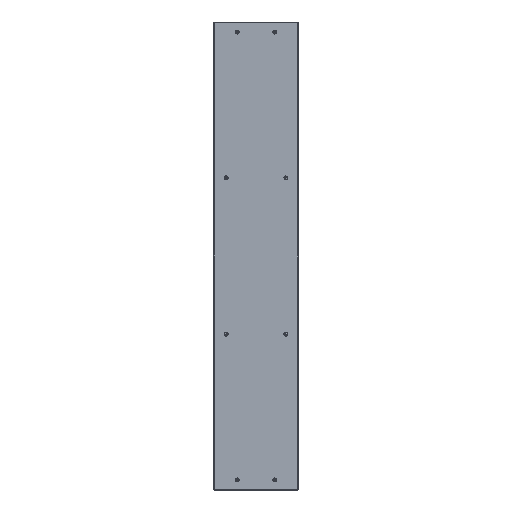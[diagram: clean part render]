
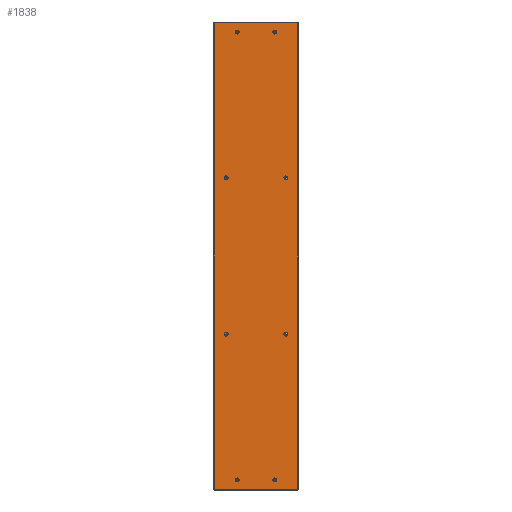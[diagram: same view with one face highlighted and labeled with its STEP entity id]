
A CAD part, left-side view. The second image highlights one B-rep face of the part: STEP entity #1838.
In plain terms, the highlighted planar face has unit normal (-1, 0, 0).
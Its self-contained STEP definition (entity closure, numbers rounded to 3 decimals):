
#1838=ADVANCED_FACE('',(#2386,#2388,#2390,#2392,#2394,#2396,#2398,#2400,#2402),#2404,
.F.);
#2386=FACE_BOUND('',#2387,.T.);
#2387=EDGE_LOOP('',(#6957,#6958,#6959,#6960));
#2388=FACE_BOUND('',#2389,.T.);
#2389=EDGE_LOOP('',(#6961));
#2390=FACE_BOUND('',#2391,.T.);
#2391=EDGE_LOOP('',(#6962));
#2392=FACE_BOUND('',#2393,.T.);
#2393=EDGE_LOOP('',(#6963));
#2394=FACE_BOUND('',#2395,.T.);
#2395=EDGE_LOOP('',(#6964));
#2396=FACE_BOUND('',#2397,.T.);
#2397=EDGE_LOOP('',(#6965));
#2398=FACE_BOUND('',#2399,.T.);
#2399=EDGE_LOOP('',(#6966));
#2400=FACE_BOUND('',#2401,.T.);
#2401=EDGE_LOOP('',(#6967));
#2402=FACE_BOUND('',#2403,.T.);
#2403=EDGE_LOOP('',(#6968));
#2404=PLANE('',#2405);
#2405=AXIS2_PLACEMENT_3D('',#2406,#2407,#2408);
#2406=CARTESIAN_POINT('',(0.,0.,0.));
#2407=DIRECTION('',(1.,0.,0.));
#2408=DIRECTION('',(0.,1.,0.));
#6957=ORIENTED_EDGE('',*,*,#8157,.T.);
#6958=ORIENTED_EDGE('',*,*,#8158,.T.);
#6959=ORIENTED_EDGE('',*,*,#8159,.T.);
#6960=ORIENTED_EDGE('',*,*,#8160,.T.);
#6961=ORIENTED_EDGE('',*,*,#8161,.T.);
#6962=ORIENTED_EDGE('',*,*,#8162,.T.);
#6963=ORIENTED_EDGE('',*,*,#8163,.T.);
#6964=ORIENTED_EDGE('',*,*,#8164,.T.);
#6965=ORIENTED_EDGE('',*,*,#8165,.T.);
#6966=ORIENTED_EDGE('',*,*,#8166,.T.);
#6967=ORIENTED_EDGE('',*,*,#8167,.T.);
#6968=ORIENTED_EDGE('',*,*,#8168,.T.);
#8157=EDGE_CURVE('',#8819,#8820,#8821,.T.);
#8158=EDGE_CURVE('',#8820,#8822,#8823,.T.);
#8159=EDGE_CURVE('',#8822,#8824,#8825,.T.);
#8160=EDGE_CURVE('',#8824,#8819,#8826,.T.);
#8161=EDGE_CURVE('',#8827,#8827,#8828,.T.);
#8162=EDGE_CURVE('',#8829,#8829,#8830,.T.);
#8163=EDGE_CURVE('',#8831,#8831,#8832,.T.);
#8164=EDGE_CURVE('',#8833,#8833,#8834,.T.);
#8165=EDGE_CURVE('',#8835,#8835,#8836,.T.);
#8166=EDGE_CURVE('',#8837,#8837,#8838,.T.);
#8167=EDGE_CURVE('',#8839,#8839,#8840,.T.);
#8168=EDGE_CURVE('',#8841,#8841,#8842,.T.);
#8819=VERTEX_POINT('',#10003);
#8820=VERTEX_POINT('',#10004);
#8821=LINE('',#10005,#10006);
#8822=VERTEX_POINT('',#10008);
#8823=LINE('',#10009,#10010);
#8824=VERTEX_POINT('',#10012);
#8825=LINE('',#10013,#10014);
#8826=LINE('',#10016,#10017);
#8827=VERTEX_POINT('',#10019);
#8828=CIRCLE('',#10020,9.25);
#8829=VERTEX_POINT('',#10024);
#8830=CIRCLE('',#10025,9.25);
#8831=VERTEX_POINT('',#10029);
#8832=CIRCLE('',#10030,9.25);
#8833=VERTEX_POINT('',#10034);
#8834=CIRCLE('',#10035,8.727);
#8835=VERTEX_POINT('',#10039);
#8836=CIRCLE('',#10040,9.25);
#8837=VERTEX_POINT('',#10044);
#8838=CIRCLE('',#10045,9.25);
#8839=VERTEX_POINT('',#10049);
#8840=CIRCLE('',#10050,9.25);
#8841=VERTEX_POINT('',#10054);
#8842=CIRCLE('',#10055,9.25);
#10003=CARTESIAN_POINT('',(0.,192.7,1082.7));
#10004=CARTESIAN_POINT('',(0.,192.7,-1082.7));
#10005=CARTESIAN_POINT('',(0.,192.7,1082.7));
#10006=VECTOR('',#10007,1.);
#10007=DIRECTION('',(0.,0.,-1.));
#10008=CARTESIAN_POINT('',(0.,-192.7,-1082.7));
#10009=CARTESIAN_POINT('',(0.,192.7,-1082.7));
#10010=VECTOR('',#10011,1.);
#10011=DIRECTION('',(0.,-1.,0.));
#10012=CARTESIAN_POINT('',(0.,-192.7,1082.7));
#10013=CARTESIAN_POINT('',(0.,-192.7,-1082.7));
#10014=VECTOR('',#10015,1.);
#10015=DIRECTION('',(0.,0.,1.));
#10016=CARTESIAN_POINT('',(0.,-192.7,1082.7));
#10017=VECTOR('',#10018,1.);
#10018=DIRECTION('',(0.,1.,0.));
#10019=CARTESIAN_POINT('',(0.,129.25,-362.5));
#10020=AXIS2_PLACEMENT_3D('',#10021,#10022,#10023);
#10021=CARTESIAN_POINT('',(0.,138.5,-362.5));
#10022=DIRECTION('',(1.,0.,0.));
#10023=DIRECTION('',(0.,-1.,0.));
#10024=CARTESIAN_POINT('',(0.,-147.75,-362.5));
#10025=AXIS2_PLACEMENT_3D('',#10026,#10027,#10028);
#10026=CARTESIAN_POINT('',(0.,-138.5,-362.5));
#10027=DIRECTION('',(1.,0.,0.));
#10028=DIRECTION('',(0.,-1.,0.));
#10029=CARTESIAN_POINT('',(0.,129.25,362.5));
#10030=AXIS2_PLACEMENT_3D('',#10031,#10032,#10033);
#10031=CARTESIAN_POINT('',(0.,138.5,362.5));
#10032=DIRECTION('',(1.,0.,0.));
#10033=DIRECTION('',(0.,-1.,0.));
#10034=CARTESIAN_POINT('',(0.,-147.227,362.5));
#10035=AXIS2_PLACEMENT_3D('',#10036,#10037,#10038);
#10036=CARTESIAN_POINT('',(0.,-138.5,362.5));
#10037=DIRECTION('',(1.,0.,0.));
#10038=DIRECTION('',(0.,-1.,0.));
#10039=CARTESIAN_POINT('',(0.,-78.25,1039.));
#10040=AXIS2_PLACEMENT_3D('',#10041,#10042,#10043);
#10041=CARTESIAN_POINT('',(0.,-87.5,1039.));
#10042=DIRECTION('',(1.,0.,0.));
#10043=DIRECTION('',(0.,1.,0.));
#10044=CARTESIAN_POINT('',(0.,96.75,1039.));
#10045=AXIS2_PLACEMENT_3D('',#10046,#10047,#10048);
#10046=CARTESIAN_POINT('',(0.,87.5,1039.));
#10047=DIRECTION('',(1.,0.,0.));
#10048=DIRECTION('',(0.,1.,0.));
#10049=CARTESIAN_POINT('',(0.,-78.25,-1039.));
#10050=AXIS2_PLACEMENT_3D('',#10051,#10052,#10053);
#10051=CARTESIAN_POINT('',(0.,-87.5,-1039.));
#10052=DIRECTION('',(1.,0.,0.));
#10053=DIRECTION('',(0.,1.,0.));
#10054=CARTESIAN_POINT('',(0.,96.75,-1039.));
#10055=AXIS2_PLACEMENT_3D('',#10056,#10057,#10058);
#10056=CARTESIAN_POINT('',(0.,87.5,-1039.));
#10057=DIRECTION('',(1.,0.,0.));
#10058=DIRECTION('',(0.,1.,0.));
